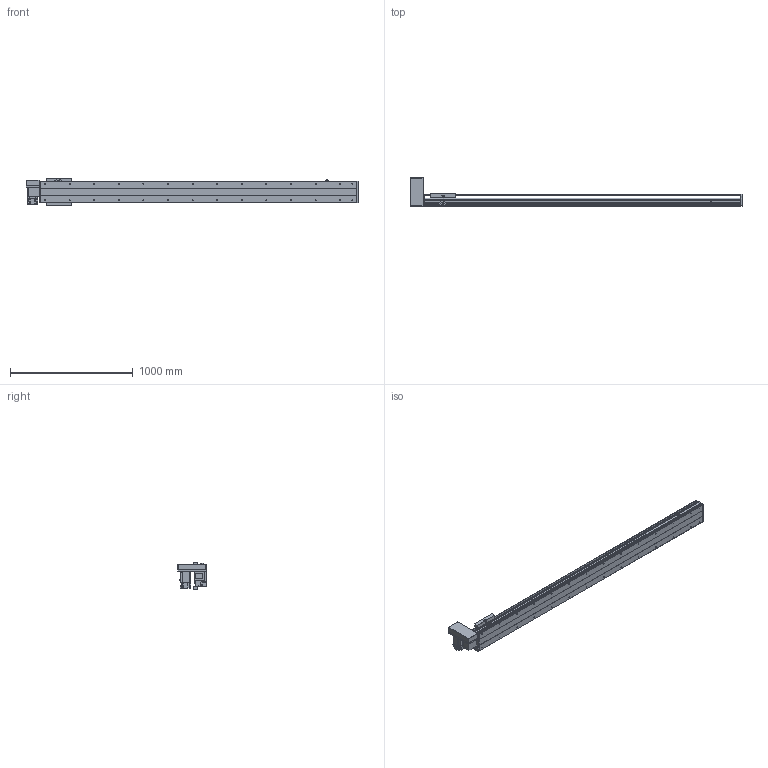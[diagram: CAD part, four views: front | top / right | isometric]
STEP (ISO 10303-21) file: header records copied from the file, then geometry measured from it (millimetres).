
FILE_DESCRIPTION(/* description */ ('STEP AP214'),/* implementation_level */ '2;1');
FILE_NAME(/* name */ 'PBS200-P40-S2200-RU-T75-C1-N(0)',/* time_stamp */ '2022-06-11T09:37:03+02:00',/* author */ ('License CC BY-ND 4.0'),/* organization */ ('CADENAS'),/* preprocessor_version */ 'ST-DEVELOPER v18.102',/* originating_system */ 'PARTsolutions',/* authorisation */ ' ');
FILE_SCHEMA (('MODEL_BASED_INTEGRATED_MANUFACTURING_SCHEMA','AUTOMOTIVE_DESIGN {1 0 10303 214 3 1 1}'));
Length unit declared in the file: millimetre
Products named in the file (7): PBS200-P40-S2200-RU-T75-C1-N(0); PBS200_sensor; PBS200_plant; PBS200_sliser; T75-p1; PBS200T-RU_motors; PBS200-S2200()_body
Assembly tree (8 placements, depth 2):
  PBS200-P40-S2200-RU-T75-C1-N(0)
    PBS200_sensor  x3
    PBS200_plant
    PBS200_sliser
    T75-p1
    PBS200T-RU_motors
    PBS200-S2200()_body
Bounding box: 2700 x 231 x 221 mm (x, y, z)
Volume: 18730456.9 mm3; surface area: 3001068.7 mm2
Topology: 8 solids, 8 shells, 956 faces, 2434 edges, 1584 vertices
Faces by surface type: plane 586, cylinder 310, cone 60
Full cylindrical faces by diameter (mm): 2.459 x6, 3.242 x4, 4.5 x6, 4.917 x4, 5 x6, 6 x7, 6.6 x8, 6.647 x32, 8 x6, 10 x4, 12 x8, 38 x2, 40 x1, 70 x1
Entity records: 25301 total; most frequent: DIRECTION 4471, CARTESIAN_POINT 4300, ORIENTED_EDGE 4054, EDGE_CURVE 2027, AXIS2_PLACEMENT_3D 1579, VERTEX_POINT 1408, LINE 1313, VECTOR 1313
